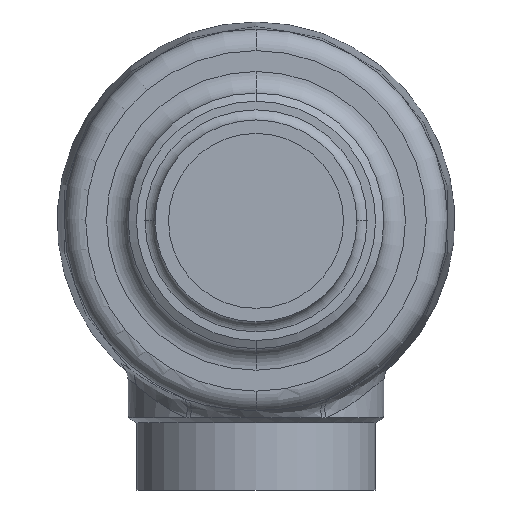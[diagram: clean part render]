
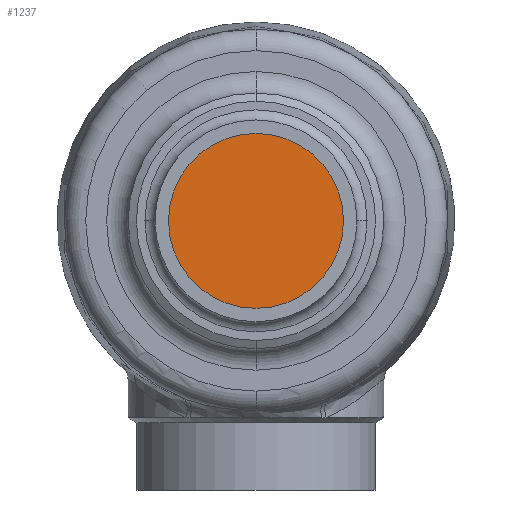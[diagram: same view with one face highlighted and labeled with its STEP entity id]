
A CAD part, front view. The second image highlights one B-rep face of the part: STEP entity #1237.
In plain terms, the highlighted planar face has unit normal (0, -1, 0) as drawn and (0, 0, 1) by its records, which use the part's own axes.
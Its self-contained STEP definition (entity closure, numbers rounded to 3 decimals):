
#424 = ORIENTED_EDGE ( 'NONE', *, *, #16976, .T. ) ;
#16883 = EDGE_LOOP ( 'NONE', ( #2515, #424 ) ) ;
#16913 = FACE_OUTER_BOUND ( 'NONE', #16883, .T. ) ;
#16914 = PLANE ( 'NONE',  #16915 ) ;
#16915 = AXIS2_PLACEMENT_3D ( 'NONE', #16916, #16917, #16918 ) ;
#16916 = CARTESIAN_POINT ( 'NONE',  ( 0., 0., 97. ) ) ;
#16917 = DIRECTION ( 'NONE',  ( 0., 0., 1. ) ) ;
#16918 = DIRECTION ( 'NONE',  ( 1., 0., 0. ) ) ;
#16976 = EDGE_CURVE ( 'NONE', #14774, #14098, #7508, .T. ) ;
#1237 = ADVANCED_FACE ( 'NONE', ( #16913 ), #16914, .T. ) ;
#2515 = ORIENTED_EDGE ( 'NONE', *, *, #14123, .T. ) ;
#3455 = CARTESIAN_POINT ( 'NONE',  ( -32.5, 0., 97. ) ) ;
#7508 = CIRCLE ( 'NONE', #7509, 32.5 ) ;
#7509 = AXIS2_PLACEMENT_3D ( 'NONE', #7510, #7511, #7512 ) ;
#7510 = CARTESIAN_POINT ( 'NONE',  ( 0., 0., 97. ) ) ;
#7511 = DIRECTION ( 'NONE',  ( 0., 0., 1. ) ) ;
#7512 = DIRECTION ( 'NONE',  ( 1., 0., 0. ) ) ;
#10785 = CARTESIAN_POINT ( 'NONE',  ( 32.5, 0., 97. ) ) ;
#10889 = CIRCLE ( 'NONE', #10890, 32.5 ) ;
#10890 = AXIS2_PLACEMENT_3D ( 'NONE', #10891, #10892, #10893 ) ;
#10891 = CARTESIAN_POINT ( 'NONE',  ( 0., 0., 97. ) ) ;
#10892 = DIRECTION ( 'NONE',  ( 0., 0., 1. ) ) ;
#10893 = DIRECTION ( 'NONE',  ( 1., 0., 0. ) ) ;
#14098 = VERTEX_POINT ( 'NONE', #10785 ) ;
#14123 = EDGE_CURVE ( 'NONE', #14098, #14774, #10889, .T. ) ;
#14774 = VERTEX_POINT ( 'NONE', #3455 ) ;
